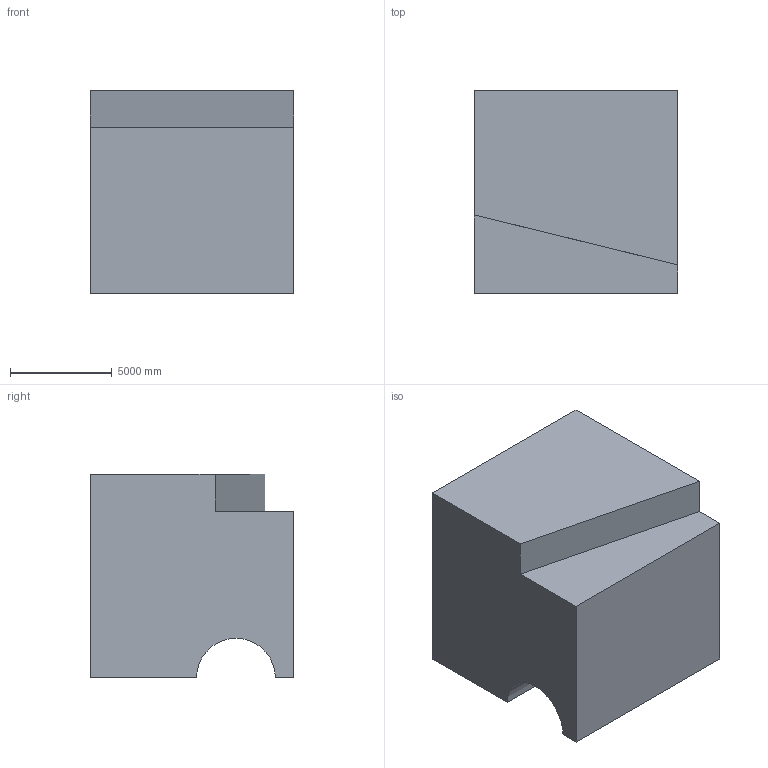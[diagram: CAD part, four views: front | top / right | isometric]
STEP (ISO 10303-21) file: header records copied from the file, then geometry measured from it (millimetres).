
FILE_DESCRIPTION (( 'STEP AP203' ), '1' );
FILE_NAME ('132.STEP', '2022-07-28T13:41:51', ( 'user' ), ( '' ), 'SwSTEP 2.0', 'SolidWorks 2021', '' );
FILE_SCHEMA (( 'CONFIG_CONTROL_DESIGN' ));
Length unit declared in the file: centimetre
Products named in the file (1): 132
Bounding box: 10000 x 10000 x 10000 mm (x, y, z)
Volume: 893097689141.3 mm3; surface area: 601269641.3 mm2
Topology: 1 solids, 1 shells, 10 faces, 24 edges, 16 vertices
Faces by surface type: plane 9, cylinder 1
Entity records: 367 total; most frequent: CARTESIAN_POINT 51, ORIENTED_EDGE 48, DIRECTION 48, EDGE_CURVE 24, LINE 22, VECTOR 22, VERTEX_POINT 16, AXIS2_PLACEMENT_3D 13
